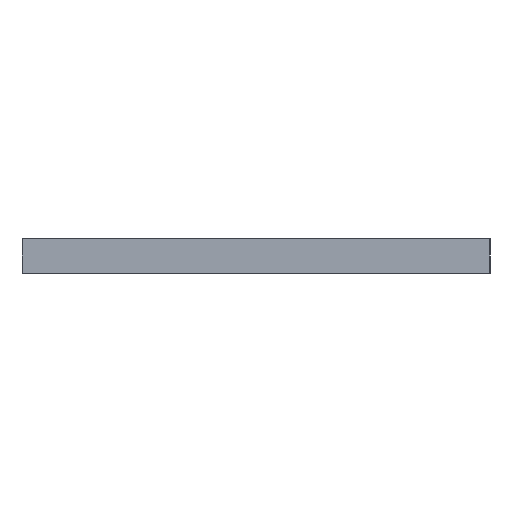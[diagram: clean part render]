
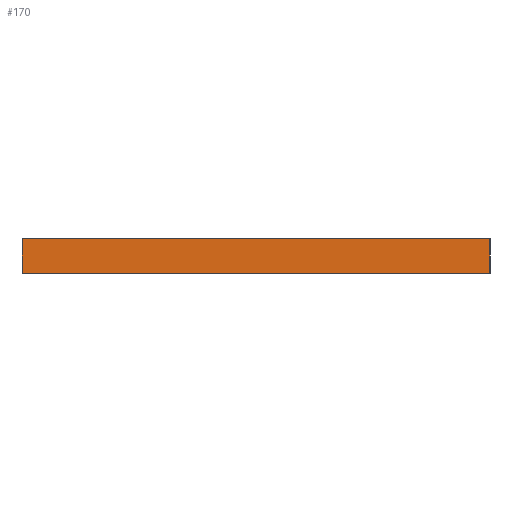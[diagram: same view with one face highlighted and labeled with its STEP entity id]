
A CAD part, left-side view. The second image highlights one B-rep face of the part: STEP entity #170.
In plain terms, the highlighted planar face has unit normal (-1, 0, 0).
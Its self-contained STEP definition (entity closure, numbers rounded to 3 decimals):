
#170=ADVANCED_FACE('',(#1731),#1733,.T.);
#1731=FACE_BOUND('',#1732,.T.);
#1732=EDGE_LOOP('',(#3133,#3134,#3135,#3136));
#1733=PLANE('',#1734);
#1734=AXIS2_PLACEMENT_3D('',#1735,#1736,#1737);
#1735=CARTESIAN_POINT('',(-275.,68.,0.));
#1736=DIRECTION('',(-1.,0.,0.));
#1737=DIRECTION('',(0.,-1.,0.));
#3133=ORIENTED_EDGE('',*,*,#3493,.T.);
#3134=ORIENTED_EDGE('',*,*,#3646,.T.);
#3135=ORIENTED_EDGE('',*,*,#3580,.F.);
#3136=ORIENTED_EDGE('',*,*,#3645,.F.);
#3493=EDGE_CURVE('',#3779,#3777,#3780,.T.);
#3580=EDGE_CURVE('',#3944,#3946,#3947,.T.);
#3645=EDGE_CURVE('',#3779,#3944,#4075,.T.);
#3646=EDGE_CURVE('',#3777,#3946,#4076,.T.);
#3777=VERTEX_POINT('',#4317);
#3779=VERTEX_POINT('',#4321);
#3780=LINE('',#4322,#4323);
#3944=VERTEX_POINT('',#4721);
#3946=VERTEX_POINT('',#4725);
#3947=LINE('',#4726,#4727);
#4075=LINE('',#5043,#5044);
#4076=LINE('',#5046,#5047);
#4317=CARTESIAN_POINT('',(-275.,-68.,0.));
#4321=CARTESIAN_POINT('',(-275.,68.,0.));
#4322=CARTESIAN_POINT('',(-275.,68.,0.));
#4323=VECTOR('',#4324,1.);
#4324=DIRECTION('',(0.,-1.,0.));
#4721=CARTESIAN_POINT('',(-275.,68.,10.));
#4725=CARTESIAN_POINT('',(-275.,-68.,10.));
#4726=CARTESIAN_POINT('',(-275.,68.,10.));
#4727=VECTOR('',#4728,1.);
#4728=DIRECTION('',(0.,-1.,0.));
#5043=CARTESIAN_POINT('',(-275.,68.,0.));
#5044=VECTOR('',#5045,1.);
#5045=DIRECTION('',(0.,0.,1.));
#5046=CARTESIAN_POINT('',(-275.,-68.,0.));
#5047=VECTOR('',#5048,1.);
#5048=DIRECTION('',(0.,0.,1.));
